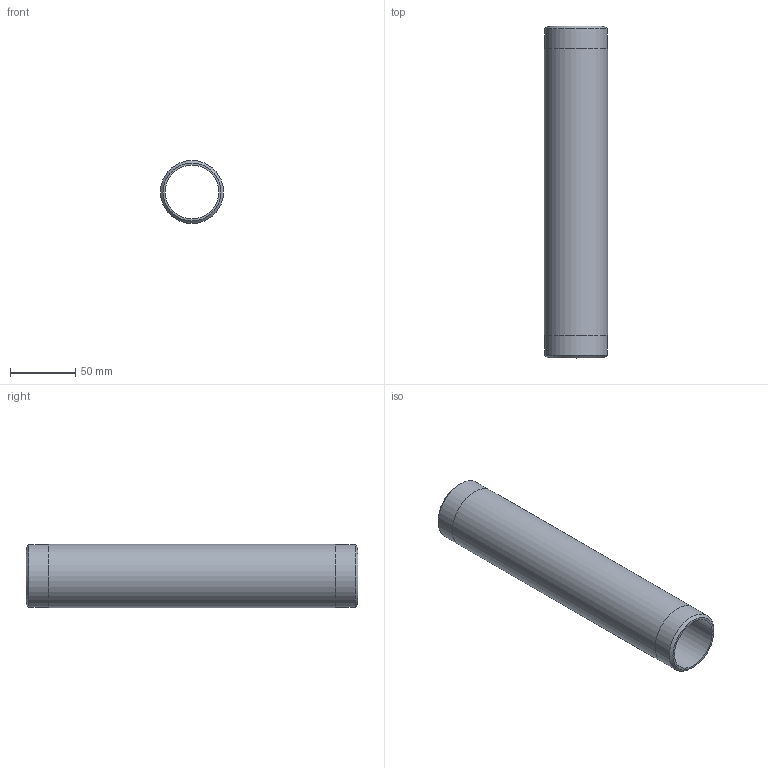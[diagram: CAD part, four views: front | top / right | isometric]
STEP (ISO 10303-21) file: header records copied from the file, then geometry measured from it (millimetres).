
FILE_DESCRIPTION(/* description */ (''),/* implementation_level */ '2;1');
FILE_NAME(/* name */ 'C:/Users/drich/Desktop/BPN1-1_2-10 v1.step',/* time_stamp */ '2020-01-03T14:30:35-06:00',/* author */ (''),/* organization */ (''),/* preprocessor_version */ 'ST-DEVELOPER v18',/* originating_system */ 'Autodesk Translation Framework v8.12.0.6',/* authorisation */ '');
FILE_SCHEMA (('AUTOMOTIVE_DESIGN { 1 0 10303 214 3 1 1 }'));
Length unit declared in the file: inch
Products named in the file (1): BPN1-1_2-10
Bounding box: 48.26 x 254 x 48.26 mm (x, y, z)
Volume: 130266.6 mm3; surface area: 71796.5 mm2
Topology: 1 solids, 1 shells, 10 faces, 24 edges, 18 vertices
Faces by surface type: cylinder 4, plane 4, cone 2
Full cylindrical faces by diameter (mm): 40.894 x1, 48.209 x2, 48.26 x1
Entity records: 360 total; most frequent: DIRECTION 64, CARTESIAN_POINT 53, ORIENTED_EDGE 48, AXIS2_PLACEMENT_3D 29, EDGE_CURVE 24, CIRCLE 18, VERTEX_POINT 18, EDGE_LOOP 14
